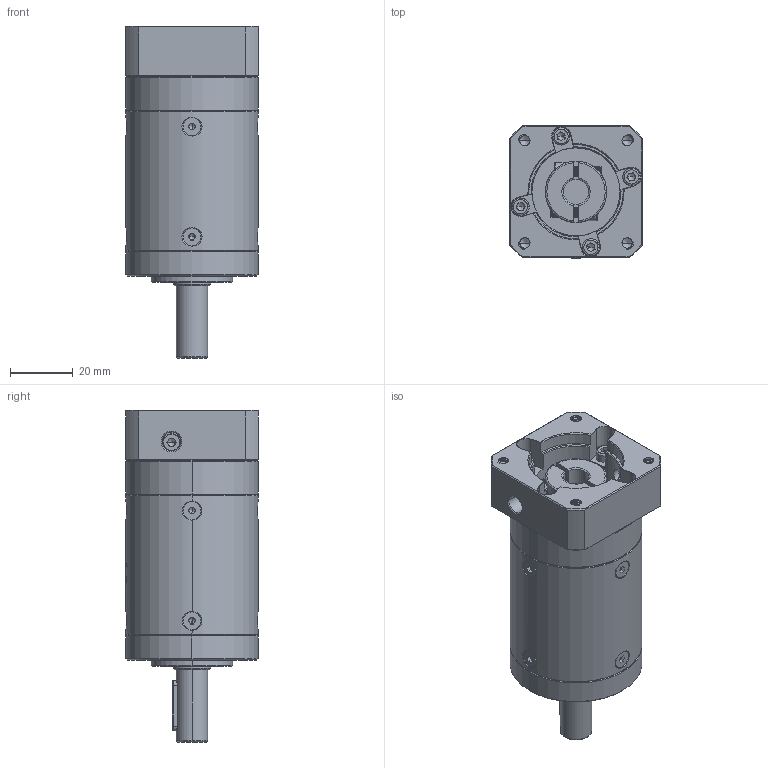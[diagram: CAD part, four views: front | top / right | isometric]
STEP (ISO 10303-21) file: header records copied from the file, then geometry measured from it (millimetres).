
FILE_DESCRIPTION (( 'STEP AP214' ), '1' );
FILE_NAME ('ZE40-L2-P2-8-30-46-M4.STEP', '2023-06-06T13:02:07', ( 'Windows 蚚誧' ), ( 'Organization' ), 'SwSTEP 2.0', 'SolidWorks 2016', '' );
FILE_SCHEMA (( 'AUTOMOTIVE_DESIGN' ));
Length unit declared in the file: millimetre
Products named in the file (1): ZE40-L2-P2-8-30-46-M4
Bounding box: 42 x 42 x 105.5 mm (x, y, z)
Volume: 102273.8 mm3; surface area: 27444.6 mm2
Topology: 14 solids, 14 shells, 2389 faces, 6151 edges, 3848 vertices
Faces by surface type: plane 938, cylinder 592, cone 490, bspline 351, torus 18
Entity records: 137800 total; most frequent: CARTESIAN_POINT 57674, ORIENTED_EDGE 12210, DIRECTION 9816, EDGE_CURVE 6105, VERTEX_POINT 3848, AXIS2_PLACEMENT_3D 3347, VECTOR 3122, LINE 3122
